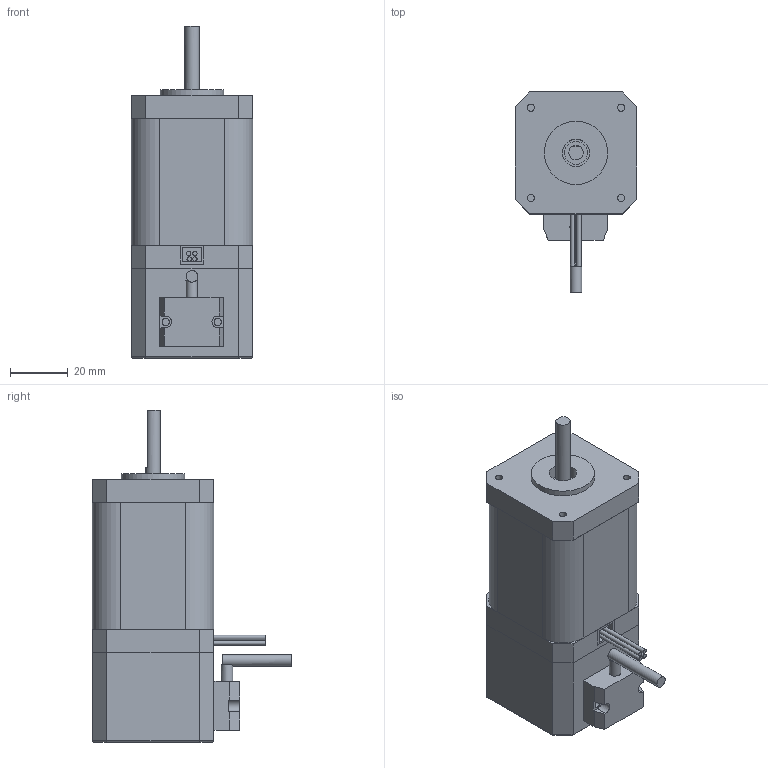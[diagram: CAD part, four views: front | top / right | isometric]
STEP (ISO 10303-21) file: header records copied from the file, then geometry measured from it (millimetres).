
FILE_DESCRIPTION(/* description */ (''),/* implementation_level */ '2;1');
FILE_NAME(/* name */ 'MP3-42HZ060.step',/* time_stamp */ '2022-05-24T10:37:37+08:00',/* author */ (''),/* organization */ (''),/* preprocessor_version */ 'ST-DEVELOPER v16',/* originating_system */ 'SIEMENS PLM Software NX 10.0',/* authorisation */ '');
FILE_SCHEMA (('AUTOMOTIVE_DESIGN { 1 0 10303 214 3 1 1 1 }'));
Length unit declared in the file: millimetre
Products named in the file (1): MP3-42HZ048
Bounding box: 42.2 x 69.2 x 115 mm (x, y, z)
Volume: 159924 mm3; surface area: 32373.6 mm2
Topology: 13 solids, 13 shells, 137 faces, 309 edges, 206 vertices
Faces by surface type: plane 94, cylinder 43
Full cylindrical faces by diameter (mm): 1.5 x4, 2.5 x10, 4 x2, 5 x2, 6 x4, 8 x2, 9.5 x2, 22 x2
Entity records: 3711 total; most frequent: CARTESIAN_POINT 624, DIRECTION 617, ORIENTED_EDGE 534, EDGE_CURVE 267, AXIS2_PLACEMENT_3D 216, EDGE_LOOP 198, VERTEX_POINT 193, LINE 185
